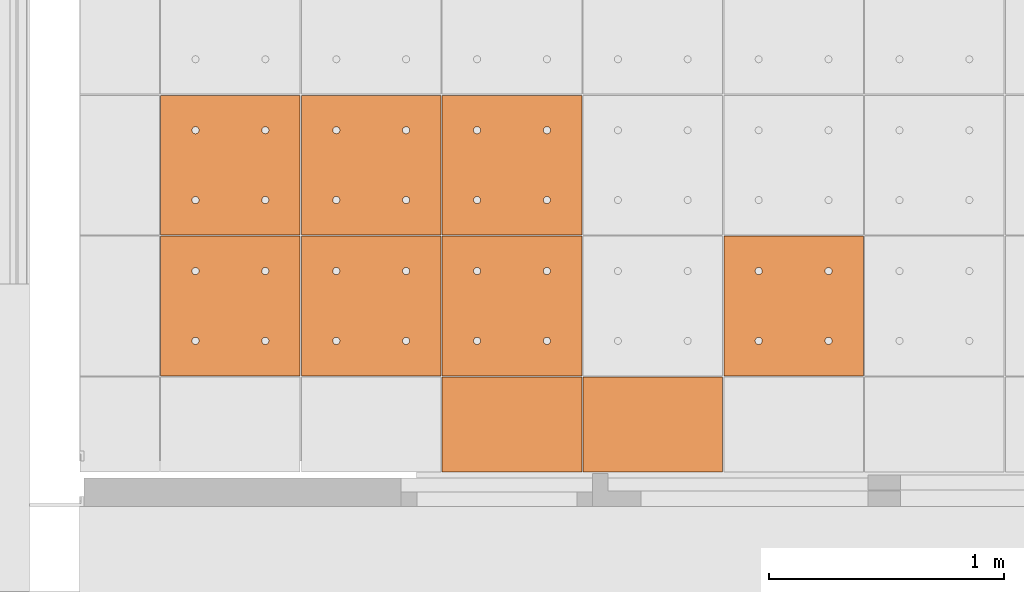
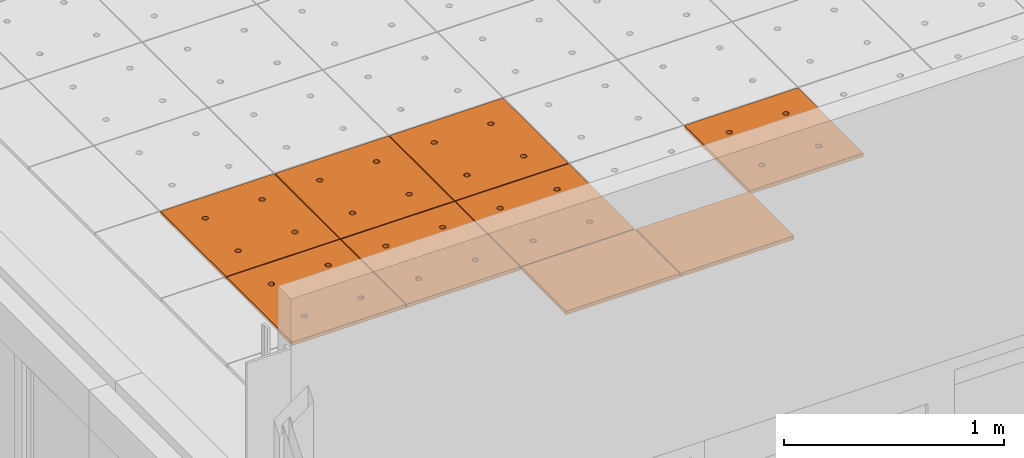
# One storey, part 232 of 338: 9 proxies, 1 element without a shape of its own.
"""IFC2X3 building model written with IfcOpenShell, lengths in millimetres."""

from ifc_helpers import new_model, entity, si_unit, converted_unit, derived_unit, money_unit, direction, frame, origin_with_axes, place, context, subcontext, project, spatial, faceted_brep, source, transform, mapped, material, type_object, type_shapes, element, aggregate, save


model = new_model("IFC2X3")

# Units and contexts
model_context = context("Model", 3, precision=0.01, world=origin_with_axes(), true_north=direction((0.0, 1.0)))
plan_context = context("Plan", 3, precision=0.01, world=origin_with_axes(), true_north=direction((0.0, 1.0)))
body_context = subcontext(model_context, "Body", "Model", "MODEL_VIEW")
ifc_project = project(units=[si_unit("LENGTHUNIT", "METRE", prefix="MILLI"), si_unit("AREAUNIT", "SQUARE_METRE"), si_unit("VOLUMEUNIT", "CUBIC_METRE"), converted_unit("PLANEANGLEUNIT", "DEGREE", entity("IfcPlaneAngleMeasure", 0.0174532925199), si_unit("PLANEANGLEUNIT", "RADIAN"), dimensions=[0, 0, 0, 0, 0, 0, 0]), money_unit("EUR"), converted_unit("TIMEUNIT", "Year", entity("IfcTimeMeasure", 31556926.0), si_unit("TIMEUNIT", "SECOND"), dimensions=[0, 0, 1, 0, 0, 0, 0]), si_unit("MASSUNIT", "GRAM", prefix="KILO"), si_unit("THERMODYNAMICTEMPERATUREUNIT", "DEGREE_CELSIUS"), si_unit("LUMINOUSINTENSITYUNIT", "LUMEN"), si_unit("ENERGYUNIT", "JOULE", prefix="MEGA"), derived_unit("THERMALCONDUCTANCEUNIT", [(si_unit("POWERUNIT", "WATT"), 1), (si_unit("LENGTHUNIT", "METRE"), -1), (si_unit("THERMODYNAMICTEMPERATUREUNIT", "KELVIN"), -1)]), derived_unit("SPECIFICHEATCAPACITYUNIT", [(si_unit("ENERGYUNIT", "JOULE"), 1), (si_unit("MASSUNIT", "GRAM", prefix="KILO"), -1), (si_unit("THERMODYNAMICTEMPERATUREUNIT", "KELVIN"), -1)]), derived_unit("MASSDENSITYUNIT", [(si_unit("MASSUNIT", "GRAM", prefix="KILO"), 1), (si_unit("VOLUMEUNIT", "CUBIC_METRE"), -1)])], contexts=[model_context, plan_context])

# Site, building, storey
site_placement = place(None, origin_with_axes())
site = spatial("IfcSite", under=ifc_project, at=site_placement, Name="Fortuinstraat Woensdrecht", CompositionType="ELEMENT")
building_placement = place(site_placement, origin_with_axes())
building = spatial("IfcBuilding", under=site, at=building_placement, Name="IKC Fortuna", CompositionType="ELEMENT")
storey_placement = place(building_placement, origin_with_axes())
storey = spatial("IfcBuildingStorey", under=building, at=storey_placement, Name="00 begane grond", CompositionType="ELEMENT", Elevation=0.0)

# Covering, proxies
covering_type = type_object("IfcCoveringType", Name="Curtain Wall Type", PredefinedType="CEILING")
covering_placement = place(storey_placement, frame((17451.9845996, 24118.5314449, 3210.0), z_axis=(0.0, 0.0, 1.0), x_axis=(1.0, 0.0, 0.0)))
covering = element("IfcCovering", 1, at=covering_placement, inside=storey, type_object=covering_type, Name="45_Plafondafwerking_P01", PredefinedType="CEILING")
ifc_material = material(Name="Gipsplaat")
building_element_proxy_type_1 = type_object("IfcBuildingElementProxyType", Name="Main Panel 600 x 600 x 20", PredefinedType="NOTDEFINED")
shared_shape_1 = source(origin_with_axes(), body_context, "Body", "Brep", [
    faceted_brep([(2.49999999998, 2.49999999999, -10.0), (300.0, 2.49999999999, -10.0), (300.0, 2.49999999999, 10.0), (2.49999999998, 2.49999999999, 10.0), (2.49999999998, 300.0, -10.0), (2.49999999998, 597.5, -10.0), (300.0, 597.5, -10.0), (597.5, 597.5, -10.0), (597.5, 300.0, -10.0), (597.5, 2.49999999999, -10.0), (166.25, 450.06232995, -10.0), (165.79423259, 452.64711538, -10.0), (164.896546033, 455.11348892, -10.0), (163.58421608, 457.38651108, -10.0), (161.897117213, 459.39711721, -10.0), (159.886511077, 461.08421608, -10.0), (157.613488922, 462.39654603, -10.0), (155.147115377, 463.29423259, -10.0), (152.562329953, 463.75, -10.0), (149.937670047, 463.75, -10.0), (147.352884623, 463.29423259, -10.0), (144.886511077, 462.39654603, -10.0), (142.613488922, 461.08421608, -10.0), (140.602882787, 459.39711721, -10.0), (138.91578392, 457.38651108, -10.0), (137.603453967, 455.11348892, -10.0), (136.705767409, 452.64711538, -10.0), (136.25, 450.06232995, -10.0), (136.25, 448.75, -10.0), (136.25, 447.43767005, -10.0), (136.705767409, 444.85288462, -10.0), (137.603453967, 442.38651108, -10.0), (138.91578392, 440.11348892, -10.0), (140.602882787, 438.10288279, -10.0), (142.613488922, 436.41578392, -10.0), (144.886511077, 435.10345397, -10.0), (147.352884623, 434.20576741, -10.0), (149.937670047, 433.75, -10.0), (152.562329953, 433.75, -10.0), (155.147115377, 434.20576741, -10.0), (157.613488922, 435.10345397, -10.0), (159.886511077, 436.41578392, -10.0), (161.897117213, 438.10288279, -10.0), (163.58421608, 440.11348892, -10.0), (164.896546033, 442.38651108, -10.0), (165.79423259, 444.85288462, -10.0), (166.25, 447.43767005, -10.0), (463.75, 450.06232995, -10.0), (463.29423259, 452.64711538, -10.0), (462.396546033, 455.11348892, -10.0), (461.08421608, 457.38651108, -10.0), (459.397117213, 459.39711721, -10.0), (457.386511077, 461.08421608, -10.0), (455.113488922, 462.39654603, -10.0), (452.647115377, 463.29423259, -10.0), (450.062329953, 463.75, -10.0), (447.437670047, 463.75, -10.0), (444.852884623, 463.29423259, -10.0), (442.386511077, 462.39654603, -10.0), (440.113488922, 461.08421608, -10.0), (438.102882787, 459.39711721, -10.0), (436.41578392, 457.38651108, -10.0), (435.103453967, 455.11348892, -10.0), (434.205767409, 452.64711538, -10.0), (433.75, 450.06232995, -10.0), (433.75, 448.75, -10.0), (433.75, 447.43767005, -10.0), (434.205767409, 444.85288462, -10.0), (435.103453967, 442.38651108, -10.0), (436.41578392, 440.11348892, -10.0), (438.102882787, 438.10288279, -10.0), (440.113488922, 436.41578392, -10.0), (442.386511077, 435.10345397, -10.0), (444.852884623, 434.20576741, -10.0), (447.437670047, 433.75, -10.0), (450.062329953, 433.75, -10.0), (452.647115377, 434.20576741, -10.0), (455.113488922, 435.10345397, -10.0), (457.386511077, 436.41578392, -10.0), (459.397117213, 438.10288279, -10.0), (461.08421608, 440.11348892, -10.0), (462.396546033, 442.38651108, -10.0), (463.29423259, 444.85288462, -10.0), (463.75, 447.43767005, -10.0), (463.75, 152.56232995, -10.0), (463.29423259, 155.14711538, -10.0), (462.396546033, 157.61348892, -10.0), (461.08421608, 159.88651108, -10.0), (459.397117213, 161.89711721, -10.0), (457.386511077, 163.58421608, -10.0), (455.113488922, 164.89654603, -10.0), (452.647115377, 165.79423259, -10.0), (450.062329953, 166.25, -10.0), (447.437670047, 166.25, -10.0), (444.852884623, 165.79423259, -10.0), (442.386511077, 164.89654603, -10.0), (440.113488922, 163.58421608, -10.0), (438.102882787, 161.89711721, -10.0), (436.41578392, 159.88651108, -10.0), (435.103453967, 157.61348892, -10.0), (434.205767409, 155.14711538, -10.0), (433.75, 152.56232995, -10.0), (433.75, 151.25, -10.0), (433.75, 149.93767005, -10.0), (434.205767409, 147.35288462, -10.0), (435.103453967, 144.88651108, -10.0), (436.41578392, 142.61348892, -10.0), (438.102882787, 140.60288279, -10.0), (440.113488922, 138.91578392, -10.0), (442.386511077, 137.60345397, -10.0), (444.852884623, 136.70576741, -10.0), (447.437670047, 136.25, -10.0), (450.062329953, 136.25, -10.0), (452.647115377, 136.70576741, -10.0), (455.113488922, 137.60345397, -10.0), (457.386511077, 138.91578392, -10.0), (459.397117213, 140.60288279, -10.0), (461.08421608, 142.61348892, -10.0), (462.396546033, 144.88651108, -10.0), (463.29423259, 147.35288462, -10.0), (463.75, 149.93767005, -10.0), (166.25, 152.56232995, -10.0), (165.79423259, 155.14711538, -10.0), (164.896546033, 157.61348892, -10.0), (163.58421608, 159.88651108, -10.0), (161.897117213, 161.89711721, -10.0), (159.886511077, 163.58421608, -10.0), (157.613488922, 164.89654603, -10.0), (155.147115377, 165.79423259, -10.0), (152.562329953, 166.25, -10.0), (149.937670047, 166.25, -10.0), (147.352884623, 165.79423259, -10.0), (144.886511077, 164.89654603, -10.0), (142.613488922, 163.58421608, -10.0), (140.602882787, 161.89711721, -10.0), (138.91578392, 159.88651108, -10.0), (137.603453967, 157.61348892, -10.0), (136.705767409, 155.14711538, -10.0), (136.25, 152.56232995, -10.0), (136.25, 151.25, -10.0), (136.25, 149.93767005, -10.0), (136.705767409, 147.35288462, -10.0), (137.603453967, 144.88651108, -10.0), (138.91578392, 142.61348892, -10.0), (140.602882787, 140.60288279, -10.0), (142.613488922, 138.91578392, -10.0), (144.886511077, 137.60345397, -10.0), (147.352884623, 136.70576741, -10.0), (149.937670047, 136.25, -10.0), (152.562329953, 136.25, -10.0), (155.147115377, 136.70576741, -10.0), (157.613488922, 137.60345397, -10.0), (159.886511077, 138.91578392, -10.0), (161.897117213, 140.60288279, -10.0), (163.58421608, 142.61348892, -10.0), (164.896546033, 144.88651108, -10.0), (165.79423259, 147.35288462, -10.0), (166.25, 149.93767005, -10.0), (597.5, 2.49999999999, 10.0), (597.5, 300.0, 10.0), (597.5, 597.5, 10.0), (300.0, 597.5, 10.0), (2.49999999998, 597.5, 10.0), (2.49999999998, 300.0, 10.0), (166.25, 450.06232995, 10.0), (166.25, 447.43767005, 10.0), (165.79423259, 444.85288462, 10.0), (164.896546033, 442.38651108, 10.0), (163.58421608, 440.11348892, 10.0), (161.897117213, 438.10288279, 10.0), (159.886511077, 436.41578392, 10.0), (157.613488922, 435.10345397, 10.0), (155.147115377, 434.20576741, 10.0), (152.562329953, 433.75, 10.0), (149.937670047, 433.75, 10.0), (147.352884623, 434.20576741, 10.0), (144.886511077, 435.10345397, 10.0), (142.613488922, 436.41578392, 10.0), (140.602882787, 438.10288279, 10.0), (138.91578392, 440.11348892, 10.0), (137.603453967, 442.38651108, 10.0), (136.705767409, 444.85288462, 10.0), (136.25, 447.43767005, 10.0), (136.25, 448.75, 10.0), (136.25, 450.06232995, 10.0), (136.705767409, 452.64711538, 10.0), (137.603453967, 455.11348892, 10.0), (138.91578392, 457.38651108, 10.0), (140.602882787, 459.39711721, 10.0), (142.613488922, 461.08421608, 10.0), (144.886511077, 462.39654603, 10.0), (147.352884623, 463.29423259, 10.0), (149.937670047, 463.75, 10.0), (152.562329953, 463.75, 10.0), (155.147115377, 463.29423259, 10.0), (157.613488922, 462.39654603, 10.0), (159.886511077, 461.08421608, 10.0), (161.897117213, 459.39711721, 10.0), (163.58421608, 457.38651108, 10.0), (164.896546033, 455.11348892, 10.0), (165.79423259, 452.64711538, 10.0), (463.75, 450.06232995, 10.0), (463.75, 447.43767005, 10.0), (463.29423259, 444.85288462, 10.0), (462.396546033, 442.38651108, 10.0), (461.08421608, 440.11348892, 10.0), (459.397117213, 438.10288279, 10.0), (457.386511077, 436.41578392, 10.0), (455.113488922, 435.10345397, 10.0), (452.647115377, 434.20576741, 10.0), (450.062329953, 433.75, 10.0), (447.437670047, 433.75, 10.0), (444.852884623, 434.20576741, 10.0), (442.386511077, 435.10345397, 10.0), (440.113488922, 436.41578392, 10.0), (438.102882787, 438.10288279, 10.0), (436.41578392, 440.11348892, 10.0), (435.103453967, 442.38651108, 10.0), (434.205767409, 444.85288462, 10.0), (433.75, 447.43767005, 10.0), (433.75, 448.75, 10.0), (433.75, 450.06232995, 10.0), (434.205767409, 452.64711538, 10.0), (435.103453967, 455.11348892, 10.0), (436.41578392, 457.38651108, 10.0), (438.102882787, 459.39711721, 10.0), (440.113488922, 461.08421608, 10.0), (442.386511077, 462.39654603, 10.0), (444.852884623, 463.29423259, 10.0), (447.437670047, 463.75, 10.0), (450.062329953, 463.75, 10.0), (452.647115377, 463.29423259, 10.0), (455.113488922, 462.39654603, 10.0), (457.386511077, 461.08421608, 10.0), (459.397117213, 459.39711721, 10.0), (461.08421608, 457.38651108, 10.0), (462.396546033, 455.11348892, 10.0), (463.29423259, 452.64711538, 10.0), (463.75, 152.56232995, 10.0), (463.75, 149.93767005, 10.0), (463.29423259, 147.35288462, 10.0), (462.396546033, 144.88651108, 10.0), (461.08421608, 142.61348892, 10.0), (459.397117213, 140.60288279, 10.0), (457.386511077, 138.91578392, 10.0), (455.113488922, 137.60345397, 10.0), (452.647115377, 136.70576741, 10.0), (450.062329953, 136.25, 10.0), (447.437670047, 136.25, 10.0), (444.852884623, 136.70576741, 10.0), (442.386511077, 137.60345397, 10.0), (440.113488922, 138.91578392, 10.0), (438.102882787, 140.60288279, 10.0), (436.41578392, 142.61348892, 10.0), (435.103453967, 144.88651108, 10.0), (434.205767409, 147.35288462, 10.0), (433.75, 149.93767005, 10.0), (433.75, 151.25, 10.0), (433.75, 152.56232995, 10.0), (434.205767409, 155.14711538, 10.0), (435.103453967, 157.61348892, 10.0), (436.41578392, 159.88651108, 10.0), (438.102882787, 161.89711721, 10.0), (440.113488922, 163.58421608, 10.0), (442.386511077, 164.89654603, 10.0), (444.852884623, 165.79423259, 10.0), (447.437670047, 166.25, 10.0), (450.062329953, 166.25, 10.0), (452.647115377, 165.79423259, 10.0), (455.113488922, 164.89654603, 10.0), (457.386511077, 163.58421608, 10.0), (459.397117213, 161.89711721, 10.0), (461.08421608, 159.88651108, 10.0), (462.396546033, 157.61348892, 10.0), (463.29423259, 155.14711538, 10.0), (166.25, 152.56232995, 10.0), (166.25, 149.93767005, 10.0), (165.79423259, 147.35288462, 10.0), (164.896546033, 144.88651108, 10.0), (163.58421608, 142.61348892, 10.0), (161.897117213, 140.60288279, 10.0), (159.886511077, 138.91578392, 10.0), (157.613488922, 137.60345397, 10.0), (155.147115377, 136.70576741, 10.0), (152.562329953, 136.25, 10.0), (149.937670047, 136.25, 10.0), (147.352884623, 136.70576741, 10.0), (144.886511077, 137.60345397, 10.0), (142.613488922, 138.91578392, 10.0), (140.602882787, 140.60288279, 10.0), (138.91578392, 142.61348892, 10.0), (137.603453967, 144.88651108, 10.0), (136.705767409, 147.35288462, 10.0), (136.25, 149.93767005, 10.0), (136.25, 151.25, 10.0), (136.25, 152.56232995, 10.0), (136.705767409, 155.14711538, 10.0), (137.603453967, 157.61348892, 10.0), (138.91578392, 159.88651108, 10.0), (140.602882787, 161.89711721, 10.0), (142.613488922, 163.58421608, 10.0), (144.886511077, 164.89654603, 10.0), (147.352884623, 165.79423259, 10.0), (149.937670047, 166.25, 10.0), (152.562329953, 166.25, 10.0), (155.147115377, 165.79423259, 10.0), (157.613488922, 164.89654603, 10.0), (159.886511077, 163.58421608, 10.0), (161.897117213, 161.89711721, 10.0), (163.58421608, 159.88651108, 10.0), (164.896546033, 157.61348892, 10.0), (165.79423259, 155.14711538, 10.0)], [[[0, 1, 2, 3]], [[0, 4, 5, 6, 7, 8, 9, 1], [10, 11, 12, 13, 14, 15, 16, 17, 18, 19, 20, 21, 22, 23, 24, 25, 26, 27, 28, 29, 30, 31, 32, 33, 34, 35, 36, 37, 38, 39, 40, 41, 42, 43, 44, 45, 46], [47, 48, 49, 50, 51, 52, 53, 54, 55, 56, 57, 58, 59, 60, 61, 62, 63, 64, 65, 66, 67, 68, 69, 70, 71, 72, 73, 74, 75, 76, 77, 78, 79, 80, 81, 82, 83], [84, 85, 86, 87, 88, 89, 90, 91, 92, 93, 94, 95, 96, 97, 98, 99, 100, 101, 102, 103, 104, 105, 106, 107, 108, 109, 110, 111, 112, 113, 114, 115, 116, 117, 118, 119, 120], [121, 122, 123, 124, 125, 126, 127, 128, 129, 130, 131, 132, 133, 134, 135, 136, 137, 138, 139, 140, 141, 142, 143, 144, 145, 146, 147, 148, 149, 150, 151, 152, 153, 154, 155, 156, 157]], [[1, 9, 158, 2]], [[3, 2, 158, 159, 160, 161, 162, 163], [164, 165, 166, 167, 168, 169, 170, 171, 172, 173, 174, 175, 176, 177, 178, 179, 180, 181, 182, 183, 184, 185, 186, 187, 188, 189, 190, 191, 192, 193, 194, 195, 196, 197, 198, 199, 200], [201, 202, 203, 204, 205, 206, 207, 208, 209, 210, 211, 212, 213, 214, 215, 216, 217, 218, 219, 220, 221, 222, 223, 224, 225, 226, 227, 228, 229, 230, 231, 232, 233, 234, 235, 236, 237], [238, 239, 240, 241, 242, 243, 244, 245, 246, 247, 248, 249, 250, 251, 252, 253, 254, 255, 256, 257, 258, 259, 260, 261, 262, 263, 264, 265, 266, 267, 268, 269, 270, 271, 272, 273, 274], [275, 276, 277, 278, 279, 280, 281, 282, 283, 284, 285, 286, 287, 288, 289, 290, 291, 292, 293, 294, 295, 296, 297, 298, 299, 300, 301, 302, 303, 304, 305, 306, 307, 308, 309, 310, 311]], [[4, 0, 3, 163]], [[5, 4, 163, 162]], [[6, 5, 162, 161]], [[7, 6, 161, 160]], [[8, 7, 160, 159]], [[9, 8, 159, 158]], [[11, 10, 164, 200]], [[12, 11, 200, 199]], [[13, 12, 199, 198]], [[14, 13, 198, 197]], [[15, 14, 197, 196]], [[16, 15, 196, 195]], [[17, 16, 195, 194]], [[18, 17, 194, 193]], [[19, 18, 193, 192]], [[20, 19, 192, 191]], [[21, 20, 191, 190]], [[22, 21, 190, 189]], [[23, 22, 189, 188]], [[24, 23, 188, 187]], [[25, 24, 187, 186]], [[26, 25, 186, 185]], [[27, 26, 185, 184]], [[28, 27, 184, 183]], [[29, 28, 183, 182]], [[30, 29, 182, 181]], [[31, 30, 181, 180]], [[32, 31, 180, 179]], [[33, 32, 179, 178]], [[34, 33, 178, 177]], [[35, 34, 177, 176]], [[36, 35, 176, 175]], [[37, 36, 175, 174]], [[38, 37, 174, 173]], [[39, 38, 173, 172]], [[40, 39, 172, 171]], [[41, 40, 171, 170]], [[42, 41, 170, 169]], [[43, 42, 169, 168]], [[44, 43, 168, 167]], [[45, 44, 167, 166]], [[46, 45, 166, 165]], [[10, 46, 165, 164]], [[48, 47, 201, 237]], [[49, 48, 237, 236]], [[50, 49, 236, 235]], [[51, 50, 235, 234]], [[52, 51, 234, 233]], [[53, 52, 233, 232]], [[54, 53, 232, 231]], [[55, 54, 231, 230]], [[56, 55, 230, 229]], [[57, 56, 229, 228]], [[58, 57, 228, 227]], [[59, 58, 227, 226]], [[60, 59, 226, 225]], [[61, 60, 225, 224]], [[62, 61, 224, 223]], [[63, 62, 223, 222]], [[64, 63, 222, 221]], [[65, 64, 221, 220]], [[66, 65, 220, 219]], [[67, 66, 219, 218]], [[68, 67, 218, 217]], [[69, 68, 217, 216]], [[70, 69, 216, 215]], [[71, 70, 215, 214]], [[72, 71, 214, 213]], [[73, 72, 213, 212]], [[74, 73, 212, 211]], [[75, 74, 211, 210]], [[76, 75, 210, 209]], [[77, 76, 209, 208]], [[78, 77, 208, 207]], [[79, 78, 207, 206]], [[80, 79, 206, 205]], [[81, 80, 205, 204]], [[82, 81, 204, 203]], [[83, 82, 203, 202]], [[47, 83, 202, 201]], [[85, 84, 238, 274]], [[86, 85, 274, 273]], [[87, 86, 273, 272]], [[88, 87, 272, 271]], [[89, 88, 271, 270]], [[90, 89, 270, 269]], [[91, 90, 269, 268]], [[92, 91, 268, 267]], [[93, 92, 267, 266]], [[94, 93, 266, 265]], [[95, 94, 265, 264]], [[96, 95, 264, 263]], [[97, 96, 263, 262]], [[98, 97, 262, 261]], [[99, 98, 261, 260]], [[100, 99, 260, 259]], [[101, 100, 259, 258]], [[102, 101, 258, 257]], [[103, 102, 257, 256]], [[104, 103, 256, 255]], [[105, 104, 255, 254]], [[106, 105, 254, 253]], [[107, 106, 253, 252]], [[108, 107, 252, 251]], [[109, 108, 251, 250]], [[110, 109, 250, 249]], [[111, 110, 249, 248]], [[112, 111, 248, 247]], [[113, 112, 247, 246]], [[114, 113, 246, 245]], [[115, 114, 245, 244]], [[116, 115, 244, 243]], [[117, 116, 243, 242]], [[118, 117, 242, 241]], [[119, 118, 241, 240]], [[120, 119, 240, 239]], [[84, 120, 239, 238]], [[122, 121, 275, 311]], [[123, 122, 311, 310]], [[124, 123, 310, 309]], [[125, 124, 309, 308]], [[126, 125, 308, 307]], [[127, 126, 307, 306]], [[128, 127, 306, 305]], [[129, 128, 305, 304]], [[130, 129, 304, 303]], [[131, 130, 303, 302]], [[132, 131, 302, 301]], [[133, 132, 301, 300]], [[134, 133, 300, 299]], [[135, 134, 299, 298]], [[136, 135, 298, 297]], [[137, 136, 297, 296]], [[138, 137, 296, 295]], [[139, 138, 295, 294]], [[140, 139, 294, 293]], [[141, 140, 293, 292]], [[142, 141, 292, 291]], [[143, 142, 291, 290]], [[144, 143, 290, 289]], [[145, 144, 289, 288]], [[146, 145, 288, 287]], [[147, 146, 287, 286]], [[148, 147, 286, 285]], [[149, 148, 285, 284]], [[150, 149, 284, 283]], [[151, 150, 283, 282]], [[152, 151, 282, 281]], [[153, 152, 281, 280]], [[154, 153, 280, 279]], [[155, 154, 279, 278]], [[156, 155, 278, 277]], [[157, 156, 277, 276]], [[121, 157, 276, 275]]]),
])
type_shapes(building_element_proxy_type_1, [shared_shape_1])
proxy_1_placement = place(covering_placement, frame((-2400.0, -7200.0, 1.7630341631e-10), z_axis=(0.0, 0.0, 1.0), x_axis=(1.0, 0.0, 0.0)))
proxy_1 = element("IfcBuildingElementProxy", 2, at=proxy_1_placement, type_object=building_element_proxy_type_1, material=ifc_material, Name="__600x621 Rockfon Krios", context=body_context, shape_type="MappedRepresentation", body=[
    mapped(shared_shape_1, transform((300.0, 300.0, 0.0), x_axis=(-1.0, 0.0, 0.0), y_axis=(0.0, -1.0, 0.0), z_axis=(0.0, 0.0, 1.0))),
])
proxy_2_placement = place(covering_placement, frame((-2400.0, -6600.0, 1.7630341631e-10), z_axis=(0.0, 0.0, 1.0), x_axis=(1.0, 0.0, 0.0)))
proxy_2 = element("IfcBuildingElementProxy", 3, at=proxy_2_placement, type_object=building_element_proxy_type_1, material=ifc_material, Name="__600x643 Rockfon Krios", context=body_context, shape_type="MappedRepresentation", body=[
    mapped(shared_shape_1, transform((300.0, 300.0, 0.0), x_axis=(-1.0, 0.0, 0.0), y_axis=(0.0, -1.0, 0.0), z_axis=(0.0, 0.0, 1.0))),
])
proxy_3_placement = place(covering_placement, frame((-600.0, -7200.0, 1.1768364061e-10), z_axis=(0.0, 0.0, 1.0), x_axis=(1.0, 0.0, 0.0)))
proxy_3 = element("IfcBuildingElementProxy", 4, at=proxy_3_placement, type_object=building_element_proxy_type_1, material=ifc_material, Name="__600x645 Rockfon Krios", context=body_context, shape_type="MappedRepresentation", body=[
    mapped(shared_shape_1, transform((300.0, 300.0, 0.0), x_axis=(-1.0, 0.0, 0.0), y_axis=(0.0, -1.0, 0.0), z_axis=(0.0, 0.0, 1.0))),
])
proxy_4_placement = place(covering_placement, frame((-3000.0, -7200.0, 1.96287430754e-10), z_axis=(0.0, 0.0, 1.0), x_axis=(1.0, 0.0, 0.0)))
proxy_4 = element("IfcBuildingElementProxy", 5, at=proxy_4_placement, type_object=building_element_proxy_type_1, material=ifc_material, Name="__600x733 Rockfon Krios", context=body_context, shape_type="MappedRepresentation", body=[
    mapped(shared_shape_1, transform((300.0, 300.0, 0.0), x_axis=(-1.0, 0.0, 0.0), y_axis=(0.0, -1.0, 0.0), z_axis=(0.0, 0.0, 1.0))),
])
proxy_5_placement = place(covering_placement, frame((-3000.0, -6600.0, 1.96287430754e-10), z_axis=(0.0, 0.0, 1.0), x_axis=(1.0, 0.0, 0.0)))
proxy_5 = element("IfcBuildingElementProxy", 6, at=proxy_5_placement, type_object=building_element_proxy_type_1, material=ifc_material, Name="__600x737 Rockfon Krios", context=body_context, shape_type="MappedRepresentation", body=[
    mapped(shared_shape_1, transform((300.0, 300.0, 0.0), x_axis=(-1.0, 0.0, 0.0), y_axis=(0.0, -1.0, 0.0), z_axis=(0.0, 0.0, 1.0))),
])
proxy_6_placement = place(covering_placement, frame((-1800.0, -6600.0, 1.56763491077e-10), z_axis=(0.0, 0.0, 1.0), x_axis=(1.0, 0.0, 0.0)))
proxy_6 = element("IfcBuildingElementProxy", 7, at=proxy_6_placement, type_object=building_element_proxy_type_1, material=ifc_material, Name="__600x774 Rockfon Krios", context=body_context, shape_type="MappedRepresentation", body=[
    mapped(shared_shape_1, transform((300.0, 300.0, 0.0), x_axis=(-1.0, 0.0, 0.0), y_axis=(0.0, -1.0, 0.0), z_axis=(0.0, 0.0, 1.0))),
])
proxy_7_placement = place(covering_placement, frame((-1800.0, -7200.0, 1.56763491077e-10), z_axis=(0.0, 0.0, 1.0), x_axis=(1.0, 0.0, 0.0)))
proxy_7 = element("IfcBuildingElementProxy", 8, at=proxy_7_placement, type_object=building_element_proxy_type_1, material=ifc_material, Name="__600x775 Rockfon Krios", context=body_context, shape_type="MappedRepresentation", body=[
    mapped(shared_shape_1, transform((300.0, 300.0, 0.0), x_axis=(-1.0, 0.0, 0.0), y_axis=(0.0, -1.0, 0.0), z_axis=(0.0, 0.0, 1.0))),
])
building_element_proxy_type_2 = type_object("IfcBuildingElementProxyType", Name="600 x 410 x 20", PredefinedType="NOTDEFINED")
shared_shape_2 = source(origin_with_axes(), body_context, "Body", "Brep", [
    faceted_brep([(2.5, 2.50000298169, -10.0), (597.5, 2.50000298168, -10.0), (597.5, 2.50000298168, 10.0), (2.5, 2.50000298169, 10.0), (2.50000000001, 407.734830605, -10.0), (597.5, 407.734830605, -10.0), (597.5, 407.734830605, 10.0), (2.50000000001, 407.734830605, 10.0)], [[[0, 1, 2, 3]], [[0, 4, 5, 1]], [[1, 5, 6, 2]], [[3, 2, 6, 7]], [[4, 0, 3, 7]], [[5, 4, 7, 6]]]),
])
type_shapes(building_element_proxy_type_2, [shared_shape_2])
proxy_8_placement = place(covering_placement, frame((-1800.0, -7705.1174153, 1.56763491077e-10), z_axis=(0.0, 0.0, 1.0), x_axis=(1.0, 0.0, 0.0)))
proxy_8 = element("IfcBuildingElementProxy", 9, at=proxy_8_placement, type_object=building_element_proxy_type_2, material=ifc_material, Name="__600x726 Rockfon Krios", context=body_context, shape_type="MappedRepresentation", body=[
    mapped(shared_shape_2, transform((300.0, 205.117415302, 0.0), x_axis=(-1.0, 0.0, 0.0), y_axis=(0.0, -1.0, 0.0), z_axis=(0.0, 0.0, 1.0))),
])
proxy_9_placement = place(covering_placement, frame((-1200.0, -7705.1174153, 1.37223565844e-10), z_axis=(0.0, 0.0, 1.0), x_axis=(1.0, 0.0, 0.0)))
proxy_9 = element("IfcBuildingElementProxy", 10, at=proxy_9_placement, type_object=building_element_proxy_type_2, material=ifc_material, Name="__600x766 Rockfon Krios", context=body_context, shape_type="MappedRepresentation", body=[
    mapped(shared_shape_2, transform((300.0, 205.117415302, 0.0), x_axis=(-1.0, 0.0, 0.0), y_axis=(0.0, -1.0, 0.0), z_axis=(0.0, 0.0, 1.0))),
])
aggregate(covering, [proxy_1, proxy_2, proxy_3, proxy_8, proxy_4, proxy_5, proxy_9, proxy_6, proxy_7])

save(model, "model.ifc")
